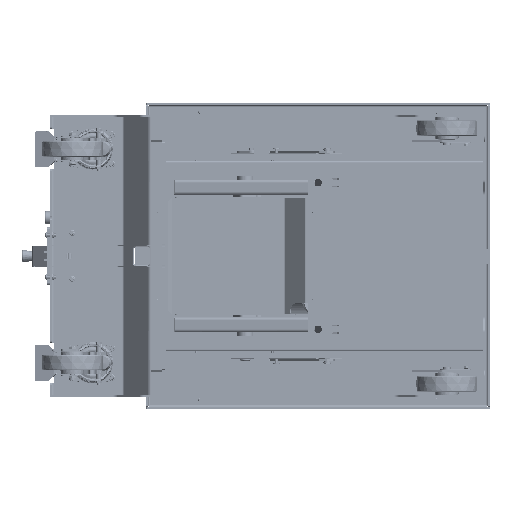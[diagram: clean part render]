
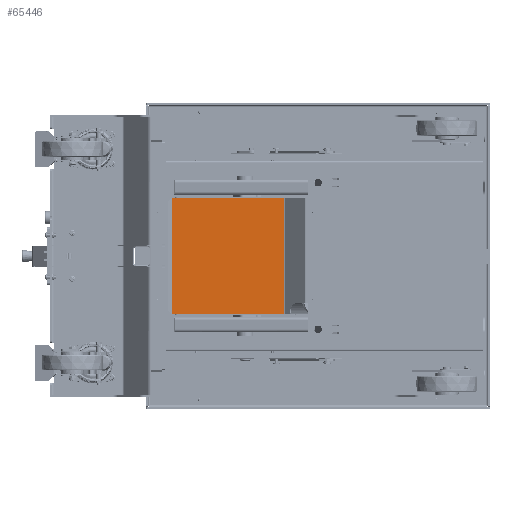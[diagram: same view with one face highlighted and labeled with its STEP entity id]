
A CAD part, front view. The second image highlights one B-rep face of the part: STEP entity #65446.
In plain terms, the highlighted planar face has unit normal (0, -1, 0).
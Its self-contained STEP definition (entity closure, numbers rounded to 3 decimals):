
#11987=FACE_OUTER_BOUND('',#16846,.T.);
#16846=EDGE_LOOP('',(#59776,#59777,#59778,#59779));
#22079=LINE('',#119204,#27331);
#22083=LINE('',#119220,#27335);
#22097=LINE('',#119264,#27349);
#22100=LINE('',#119277,#27352);
#27331=VECTOR('',#92775,10.);
#27335=VECTOR('',#92795,10.);
#27349=VECTOR('',#92853,10.);
#27352=VECTOR('',#92876,10.);
#33362=VERTEX_POINT('',#119196);
#33363=VERTEX_POINT('',#119200);
#33366=VERTEX_POINT('',#119212);
#33367=VERTEX_POINT('',#119216);
#42141=EDGE_CURVE('',#33363,#33362,#22079,.T.);
#42149=EDGE_CURVE('',#33367,#33366,#22083,.T.);
#42171=EDGE_CURVE('',#33363,#33366,#22097,.T.);
#42178=EDGE_CURVE('',#33367,#33362,#22100,.T.);
#59776=ORIENTED_EDGE('',*,*,#42171,.T.);
#59777=ORIENTED_EDGE('',*,*,#42149,.F.);
#59778=ORIENTED_EDGE('',*,*,#42178,.T.);
#59779=ORIENTED_EDGE('',*,*,#42141,.F.);
#61734=PLANE('',#73570);
#65446=ADVANCED_FACE('',(#11987),#61734,.F.);
#73570=AXIS2_PLACEMENT_3D('',#119278,#92877,#92878);
#92775=DIRECTION('',(1.,0.,0.));
#92795=DIRECTION('',(-1.,0.,0.));
#92853=DIRECTION('',(0.,0.,-1.));
#92876=DIRECTION('',(0.,0.,1.));
#92877=DIRECTION('center_axis',(0.,1.,0.));
#92878=DIRECTION('ref_axis',(0.,0.,1.));
#119196=CARTESIAN_POINT('',(146.672,0.,152.));
#119200=CARTESIAN_POINT('',(-145.843,0.,152.));
#119204=CARTESIAN_POINT('',(-147.5,0.,152.));
#119212=CARTESIAN_POINT('',(-145.843,0.,-152.));
#119216=CARTESIAN_POINT('',(146.672,0.,-152.));
#119220=CARTESIAN_POINT('',(147.5,0.,-152.));
#119264=CARTESIAN_POINT('',(-145.843,0.,-76.));
#119277=CARTESIAN_POINT('',(146.672,0.,76.));
#119278=CARTESIAN_POINT('Origin',(0.,0.,0.));
